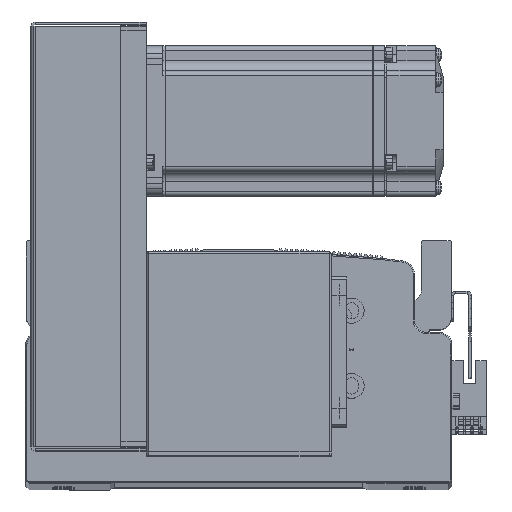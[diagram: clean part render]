
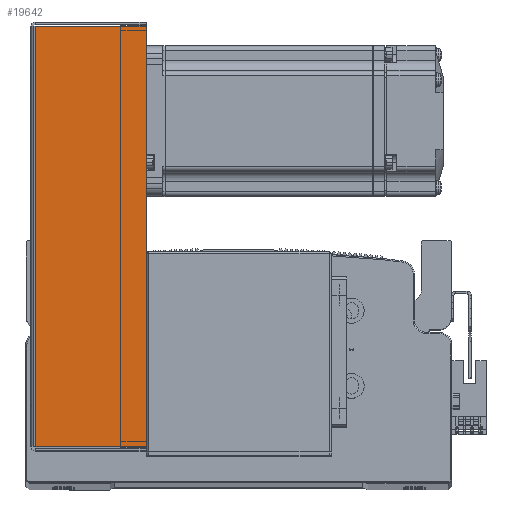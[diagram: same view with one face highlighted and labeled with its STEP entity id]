
A CAD part, top view. The second image highlights one B-rep face of the part: STEP entity #19642.
In plain terms, the highlighted planar face has unit normal (0, 0, 1) as drawn and (0, 0, -1) by its records, which use the part's own axes.
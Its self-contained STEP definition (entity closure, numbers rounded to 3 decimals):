
#15355 = VERTEX_POINT ( 'NONE', #81112 ) ;
#15357 = VERTEX_POINT ( 'NONE', #81135 ) ;
#15367 = VERTEX_POINT ( 'NONE', #81123 ) ;
#15369 = VERTEX_POINT ( 'NONE', #81132 ) ;
#19642 = ADVANCED_FACE ( 'NONE', ( #56205 ), #23999, .F. ) ;
#23944 = DIRECTION ( 'NONE',  ( 0., 0., 1. ) ) ;
#23999 = PLANE ( 'NONE',  #62266 ) ;
#24013 = DIRECTION ( 'NONE',  ( 0., -1., 0. ) ) ;
#24028 = CARTESIAN_POINT ( 'NONE',  ( 0., 0., -40.5 ) ) ;
#26288 = EDGE_CURVE ( 'NONE', #15355, #15367, #31516, .T. ) ;
#26306 = EDGE_CURVE ( 'NONE', #15357, #15355, #31571, .T. ) ;
#26326 = EDGE_CURVE ( 'NONE', #15357, #15369, #31724, .T. ) ;
#26339 = EDGE_CURVE ( 'NONE', #15369, #15367, #31704, .T. ) ;
#28373 = DIRECTION ( 'NONE',  ( 1., 0., 0. ) ) ;
#28404 = CARTESIAN_POINT ( 'NONE',  ( 84.5, 45., -40.5 ) ) ;
#28410 = CARTESIAN_POINT ( 'NONE',  ( -83.793, 0., -40.5 ) ) ;
#28414 = DIRECTION ( 'NONE',  ( 0., 1., 0. ) ) ;
#28465 = CARTESIAN_POINT ( 'NONE',  ( 0., 0.737, -40.5 ) ) ;
#28534 = DIRECTION ( 'NONE',  ( 1., 0., 0. ) ) ;
#28567 = CARTESIAN_POINT ( 'NONE',  ( 83.793, 0., -40.5 ) ) ;
#28568 = DIRECTION ( 'NONE',  ( 0., 1., 0. ) ) ;
#31516 = LINE ( 'NONE', #28404, #31605 ) ;
#31525 = VECTOR ( 'NONE', #28414, 1000. ) ;
#31571 = LINE ( 'NONE', #28410, #31525 ) ;
#31605 = VECTOR ( 'NONE', #28373, 1000. ) ;
#31704 = LINE ( 'NONE', #28567, #31732 ) ;
#31712 = VECTOR ( 'NONE', #28534, 1000. ) ;
#31724 = LINE ( 'NONE', #28465, #31712 ) ;
#31732 = VECTOR ( 'NONE', #28568, 1000. ) ;
#44365 = ORIENTED_EDGE ( 'NONE', *, *, #26326, .F. ) ;
#44420 = ORIENTED_EDGE ( 'NONE', *, *, #26339, .F. ) ;
#44437 = ORIENTED_EDGE ( 'NONE', *, *, #26288, .T. ) ;
#44517 = ORIENTED_EDGE ( 'NONE', *, *, #26306, .T. ) ;
#48251 = EDGE_LOOP ( 'NONE', ( #44365, #44517, #44437, #44420 ) ) ;
#56205 = FACE_OUTER_BOUND ( 'NONE', #48251, .T. ) ;
#62266 = AXIS2_PLACEMENT_3D ( 'NONE', #24028, #23944, #24013 ) ;
#81112 = CARTESIAN_POINT ( 'NONE',  ( -83.793, 45., -40.5 ) ) ;
#81123 = CARTESIAN_POINT ( 'NONE',  ( 83.793, 45., -40.5 ) ) ;
#81132 = CARTESIAN_POINT ( 'NONE',  ( 83.793, 0.737, -40.5 ) ) ;
#81135 = CARTESIAN_POINT ( 'NONE',  ( -83.793, 0.737, -40.5 ) ) ;
